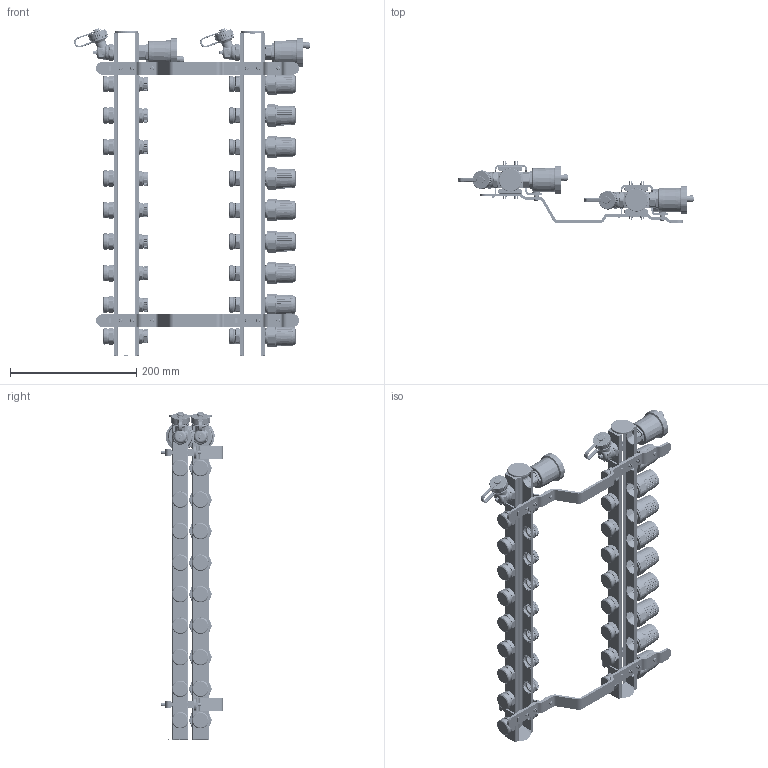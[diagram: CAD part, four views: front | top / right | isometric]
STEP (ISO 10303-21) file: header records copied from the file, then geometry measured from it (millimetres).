
FILE_DESCRIPTION(('STEP AP203'), '1');
FILE_NAME('VTc.594.EMNX.0609', '2025-11-26T12:38:07', ('verevichevva'), ('Vesta'), 'C3D Converter', 'C3D Toolkit', '');
FILE_SCHEMA(('CONFIG_CONTROL_DESIGN'));
Length unit declared in the file: millimetre
Products named in the file (1): ВР.622621.161.000 СБ
Bounding box: 374.1 x 97.53 x 519.67 mm (x, y, z)
Surface area: 333654.5 mm2 (no closed solid volume)
Topology: 0 solids, 1 shells, 14113 faces, 36988 edges, 22621 vertices
Faces by surface type: cylinder 4218, bspline 3430, plane 2994, torus 1708, cone 1409, sphere 354
Full cylindrical faces by diameter (mm): 0.36 x2, 4.2 x2, 6 x12, 6.8 x4, 7 x2, 8.352 x4, 8.4 x4, 9.5 x2, 11.2 x2, 11.5 x2, 12 x4, 16 x2, 17 x9, 18 x29, 20.8 x9, 21.5 x9, 23.3 x18, 24.5 x9, 25 x17, 25.8 x2, 26.1 x18, 28.4 x2, 33 x9, 34 x9
Entity records: 810949 total; most frequent: CARTESIAN_POINT 506749, ORIENTED_EDGE 72126, DIRECTION 50064, EDGE_CURVE 36071, VERTEX_POINT 22609, AXIS2_PLACEMENT_3D 20993, B_SPLINE_CURVE_WITH_KNOTS 17575, EDGE_LOOP 15042
